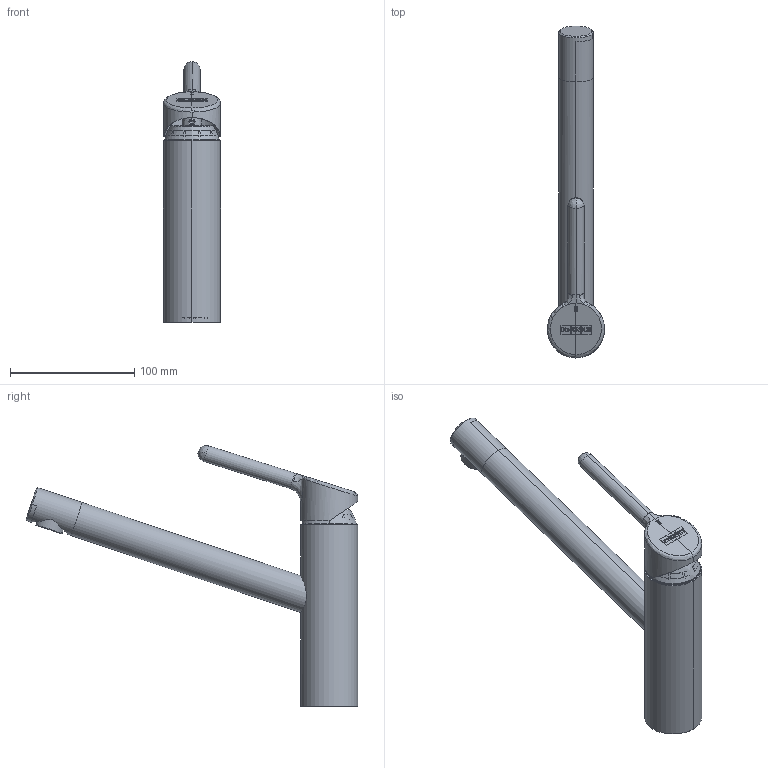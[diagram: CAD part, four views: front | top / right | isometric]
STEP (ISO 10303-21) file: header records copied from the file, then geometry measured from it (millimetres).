
FILE_DESCRIPTION(/* description */ (''),/* implementation_level */ '2;1');
FILE_NAME(/* name */ '3D001_Taps_Orbit_Swivel',/* time_stamp */ '2024-01-31T15:02:11+01:00',/* author */ (''),/* organization */ (''),/* preprocessor_version */ 'ST-DEVELOPER v19.2',/* originating_system */ 'Rhino 8.3',/* authorisation */ '');
FILE_SCHEMA (('CONFIG_CONTROL_DESIGN'));
Length unit declared in the file: millimetre
Products named in the file (18): Document; A30340-003; A30340-009_AF0; A30340-007_AF0; A30340-007_AF1; 34-3; A10390-B02_ASM; A10390-B03_AF0; A10390-B04_AF0; A10390-B05_AF0; A10390-012; Blocco 01; A30340-005_AF0; E01263; Blocco 02; A10201-002; A30340-004; 30100595
Bounding box: 46 x 266.73 x 209.89 mm (x, y, z)
Volume: 145697.4 mm3; surface area: 125834.8 mm2
Topology: 28 solids, 28 shells, 1139 faces, 3023 edges, 1962 vertices
Faces by surface type: plane 726, cylinder 210, bspline 203
Entity records: 48539 total; most frequent: CARTESIAN_POINT 23922, ORIENTED_EDGE 6014, EDGE_CURVE 3007, B_SPLINE_CURVE_WITH_KNOTS 2447, DIRECTION 2158, VERTEX_POINT 1958, AXIS2_PLACEMENT_3D 1547, EDGE_LOOP 1303
